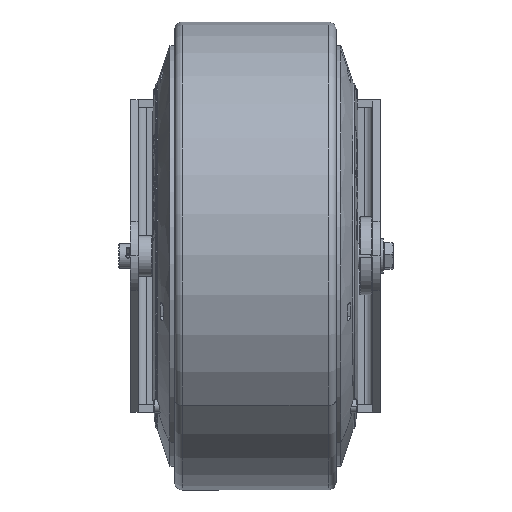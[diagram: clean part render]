
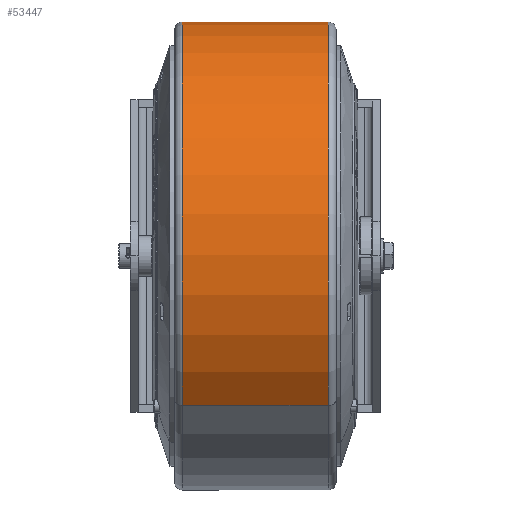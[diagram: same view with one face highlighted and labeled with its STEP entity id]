
A CAD part, front view. The second image highlights one B-rep face of the part: STEP entity #53447.
In plain terms, the highlighted cylindrical face has radius 150 mm (diameter 300 mm), a partial arc.
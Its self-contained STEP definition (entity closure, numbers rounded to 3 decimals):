
#1614 = EDGE_CURVE ( 'NONE', #42031, #42032, #3156, .T. ) ;
#1617 = EDGE_CURVE ( 'NONE', #42030, #42034, #3127, .T. ) ;
#1650 = EDGE_CURVE ( 'NONE', #42034, #42032, #17328, .T. ) ;
#1652 = EDGE_CURVE ( 'NONE', #42031, #42030, #17332, .T. ) ;
#3127 = LINE ( 'NONE', #3155, #61168 ) ;
#3132 = CARTESIAN_POINT ( 'NONE',  ( 51.75, 140.495, 95.713 ) ) ;
#3155 = CARTESIAN_POINT ( 'NONE',  ( 51.75, -90.495, -95.713 ) ) ;
#3156 = LINE ( 'NONE', #3132, #61163 ) ;
#3165 = DIRECTION ( 'NONE',  ( 1., 0., 0. ) ) ;
#3179 = DIRECTION ( 'NONE',  ( 1., 0., 0. ) ) ;
#3286 = CARTESIAN_POINT ( 'NONE',  ( 46.75, 25., 0. ) ) ;
#3288 = DIRECTION ( 'NONE',  ( -1., 0., 0. ) ) ;
#3290 = DIRECTION ( 'NONE',  ( 0., 0.77, 0.638 ) ) ;
#3294 = CARTESIAN_POINT ( 'NONE',  ( -46.75, 25., 0. ) ) ;
#3296 = DIRECTION ( 'NONE',  ( 1., 0., 0. ) ) ;
#3298 = DIRECTION ( 'NONE',  ( 0., -0.77, -0.638 ) ) ;
#17328 = CIRCLE ( 'NONE', #17334, 150. ) ;
#17332 = CIRCLE ( 'NONE', #17339, 150. ) ;
#17334 = AXIS2_PLACEMENT_3D ( 'NONE', #3286, #3288, #3290 ) ;
#17339 = AXIS2_PLACEMENT_3D ( 'NONE', #3294, #3296, #3298 ) ;
#24133 = CARTESIAN_POINT ( 'NONE',  ( -46.75, -90.495, -95.713 ) ) ;
#24134 = CARTESIAN_POINT ( 'NONE',  ( -46.75, 140.495, 95.713 ) ) ;
#24135 = CARTESIAN_POINT ( 'NONE',  ( 46.75, 140.495, 95.713 ) ) ;
#24137 = CARTESIAN_POINT ( 'NONE',  ( 46.75, -90.495, -95.713 ) ) ;
#27042 = EDGE_LOOP ( 'NONE', ( #27488, #27489, #27490, #27491 ) ) ;
#27488 = ORIENTED_EDGE ( 'NONE', *, *, #1614, .F. ) ;
#27489 = ORIENTED_EDGE ( 'NONE', *, *, #1652, .T. ) ;
#27490 = ORIENTED_EDGE ( 'NONE', *, *, #1617, .T. ) ;
#27491 = ORIENTED_EDGE ( 'NONE', *, *, #1650, .T. ) ;
#42030 = VERTEX_POINT ( 'NONE', #24133 ) ;
#42031 = VERTEX_POINT ( 'NONE', #24134 ) ;
#42032 = VERTEX_POINT ( 'NONE', #24135 ) ;
#42034 = VERTEX_POINT ( 'NONE', #24137 ) ;
#48300 = AXIS2_PLACEMENT_3D ( 'NONE', #48612, #48622, #48623 ) ;
#48610 = CYLINDRICAL_SURFACE ( 'NONE', #48300, 150. ) ;
#48611 = FACE_OUTER_BOUND ( 'NONE', #27042, .T. ) ;
#48612 = CARTESIAN_POINT ( 'NONE',  ( 51.75, 25., 0. ) ) ;
#48622 = DIRECTION ( 'NONE',  ( 1., 0., 0. ) ) ;
#48623 = DIRECTION ( 'NONE',  ( 0., -0.77, -0.638 ) ) ;
#53447 = ADVANCED_FACE ( 'NONE', ( #48611 ), #48610, .T. ) ;
#61163 = VECTOR ( 'NONE', #3165, 1000. ) ;
#61168 = VECTOR ( 'NONE', #3179, 1000. ) ;
